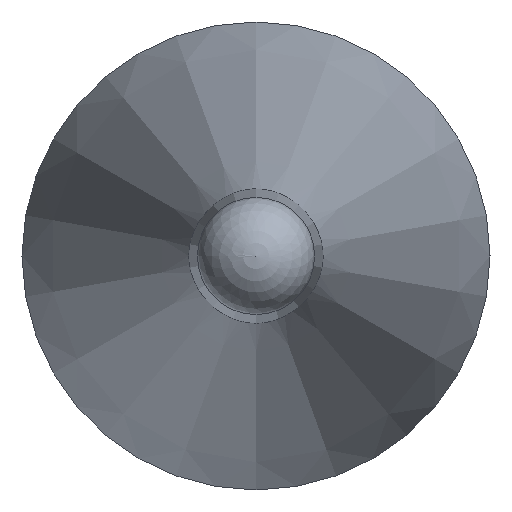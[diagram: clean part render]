
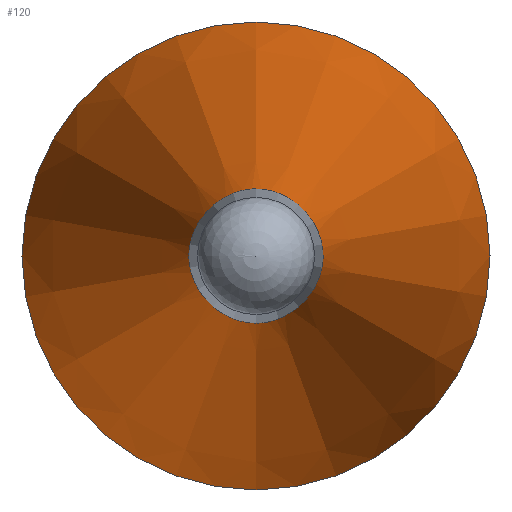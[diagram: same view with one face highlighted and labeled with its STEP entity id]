
A CAD part, left-side view. The second image highlights one B-rep face of the part: STEP entity #120.
In plain terms, the highlighted conical face has half-angle 12 degrees and reference radius 2 mm.
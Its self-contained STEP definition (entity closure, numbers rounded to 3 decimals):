
#97=CONICAL_SURFACE('',#193,2.,12.);
#99=B_SPLINE_CURVE_WITH_KNOTS('',3,(#245,#246,#247,#248,#249,#250,#251,
#252,#253,#254),.UNSPECIFIED.,.T.,.F.,(2,2,2,2,2,2,2),(-0.25,0.,0.25,0.5,
0.75,1.,1.25),.UNSPECIFIED.);
#107=FACE_BOUND('',#135,.T.);
#108=FACE_BOUND('',#136,.T.);
#120=ADVANCED_FACE('',(#107,#108),#97,.T.);
#135=EDGE_LOOP('',(#151));
#136=EDGE_LOOP('',(#152));
#151=ORIENTED_EDGE('',*,*,#173,.T.);
#152=ORIENTED_EDGE('',*,*,#174,.F.);
#165=VERTEX_POINT('',#255);
#166=VERTEX_POINT('',#258);
#173=EDGE_CURVE('',#165,#165,#99,.T.);
#174=EDGE_CURVE('',#166,#166,#181,.T.);
#181=CIRCLE('',#192,2.);
#192=AXIS2_PLACEMENT_3D('',#257,#216,#217);
#193=AXIS2_PLACEMENT_3D('',#259,#218,#219);
#216=DIRECTION('',(1.,0.,0.));
#217=DIRECTION('',(0.,0.,-1.));
#218=DIRECTION('',(1.,0.,0.));
#219=DIRECTION('',(0.,0.,-1.));
#245=CARTESIAN_POINT('',(7908.912,6103.862,-0.301));
#246=CARTESIAN_POINT('',(7908.912,6103.862,0.301));
#247=CARTESIAN_POINT('',(7908.912,6103.589,0.574));
#248=CARTESIAN_POINT('',(7908.912,6102.988,0.574));
#249=CARTESIAN_POINT('',(7908.912,6102.714,0.301));
#250=CARTESIAN_POINT('',(7908.912,6102.714,-0.301));
#251=CARTESIAN_POINT('',(7908.912,6102.988,-0.574));
#252=CARTESIAN_POINT('',(7908.912,6103.589,-0.574));
#253=CARTESIAN_POINT('',(7908.912,6103.862,-0.301));
#254=CARTESIAN_POINT('',(7908.912,6103.862,0.301));
#255=CARTESIAN_POINT('',(7908.912,6103.862,0.));
#257=CARTESIAN_POINT('',(7915.62,6103.288,0.));
#258=CARTESIAN_POINT('',(7915.62,6103.288,-2.));
#259=CARTESIAN_POINT('',(7915.62,6103.288,0.));
